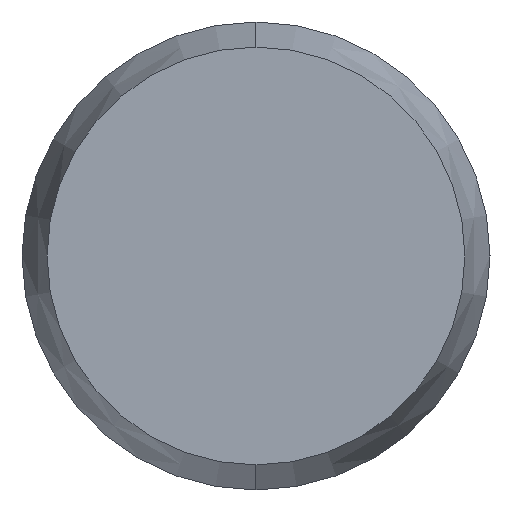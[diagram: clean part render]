
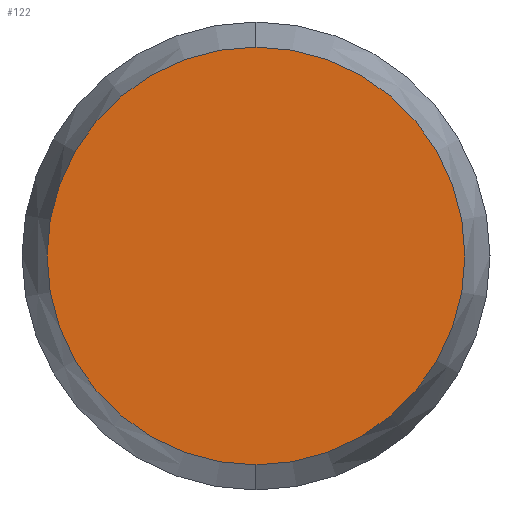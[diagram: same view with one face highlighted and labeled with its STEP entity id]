
A CAD part, left-side view. The second image highlights one B-rep face of the part: STEP entity #122.
In plain terms, the highlighted planar face has unit normal (-1, 0, 0).
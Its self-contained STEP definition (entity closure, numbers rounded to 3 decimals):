
#14 = EDGE_CURVE ( 'NONE', #15, #16, #85, .T. ) ;
#15 = VERTEX_POINT ( 'NONE', #80 ) ;
#16 = VERTEX_POINT ( 'NONE', #79 ) ;
#79 = CARTESIAN_POINT ( 'NONE',  ( -12., 0., -0.893 ) ) ;
#80 = CARTESIAN_POINT ( 'NONE',  ( -12., 0., 0.893 ) ) ;
#81 = DIRECTION ( 'NONE',  ( 0., 0., -1. ) ) ;
#82 = DIRECTION ( 'NONE',  ( 1., 0., 0. ) ) ;
#83 = CARTESIAN_POINT ( 'NONE',  ( -12., 0., 0. ) ) ;
#84 = AXIS2_PLACEMENT_3D ( 'NONE', #83, #82, #81 ) ;
#85 = CIRCLE ( 'NONE', #84, 0.893 ) ;
#119 = EDGE_CURVE ( 'NONE', #16, #15, #185, .T. ) ;
#122 = ADVANCED_FACE ( 'NONE', ( #175 ), #174, .F. ) ;
#123 = EDGE_LOOP ( 'NONE', ( #124, #125 ) ) ;
#124 = ORIENTED_EDGE ( 'NONE', *, *, #14, .F. ) ;
#125 = ORIENTED_EDGE ( 'NONE', *, *, #119, .F. ) ;
#170 = DIRECTION ( 'NONE',  ( 0., 0., -1. ) ) ;
#171 = DIRECTION ( 'NONE',  ( 1., 0., 0. ) ) ;
#172 = CARTESIAN_POINT ( 'NONE',  ( -12., 0., 0. ) ) ;
#173 = AXIS2_PLACEMENT_3D ( 'NONE', #172, #171, #170 ) ;
#174 = PLANE ( 'NONE',  #173 ) ;
#175 = FACE_OUTER_BOUND ( 'NONE', #123, .T. ) ;
#176 = DIRECTION ( 'NONE',  ( 0., 0., -1. ) ) ;
#177 = DIRECTION ( 'NONE',  ( 1., 0., 0. ) ) ;
#178 = CARTESIAN_POINT ( 'NONE',  ( -12., 0., 0. ) ) ;
#179 = AXIS2_PLACEMENT_3D ( 'NONE', #178, #177, #176 ) ;
#185 = CIRCLE ( 'NONE', #179, 0.893 ) ;
